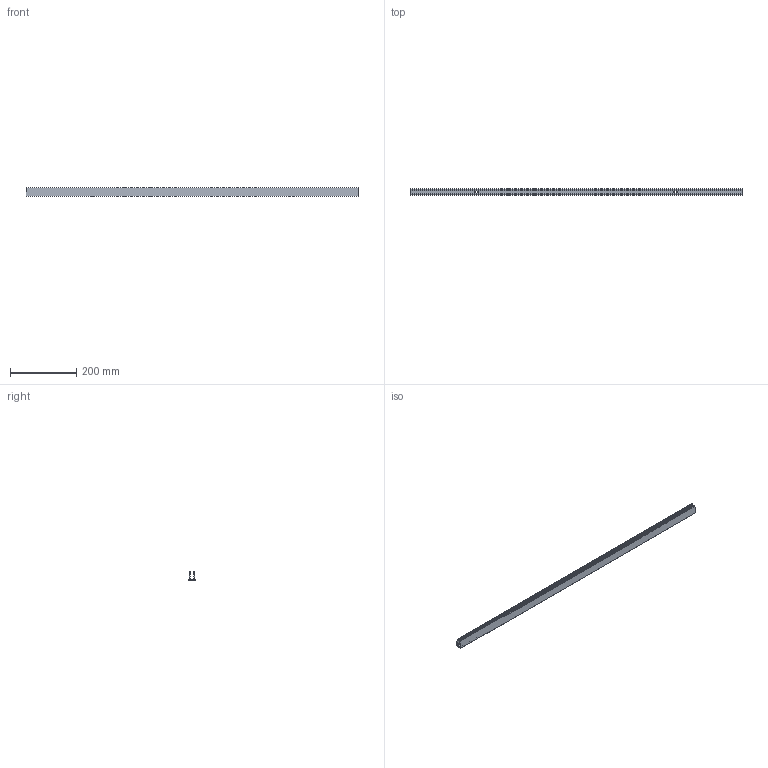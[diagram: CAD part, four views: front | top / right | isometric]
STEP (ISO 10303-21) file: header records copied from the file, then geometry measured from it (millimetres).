
FILE_DESCRIPTION(/* description */ (''),/* implementation_level */ '2;1');
FILE_NAME(/* name */ 'NF_1121+1128_TRANSPARENT_PROFILE_L1000_R01.step',/* time_stamp */ '2026-07-17T17:42:15+02:00',/* author */ (''),/* organization */ (''),/* preprocessor_version */ 'ST-DEVELOPER v20.1',/* originating_system */ 'Autodesk Translation Framework v15.8.0.0',/* authorisation */ '');
FILE_SCHEMA (('AUTOMOTIVE_DESIGN { 1 0 10303 214 3 1 1 }'));
Length unit declared in the file: millimetre
Products named in the file (1): 2026-07-17-16-22-43-731
Bounding box: 1000 x 19.58 x 26.33 mm (x, y, z)
Volume: 166996.9 mm3; surface area: 149661.6 mm2
Topology: 1 solids, 1 shells, 50 faces, 144 edges, 96 vertices
Faces by surface type: plane 36, cylinder 14
Entity records: 1677 total; most frequent: CARTESIAN_POINT 291, ORIENTED_EDGE 288, DIRECTION 274, EDGE_CURVE 144, LINE 116, VECTOR 116, VERTEX_POINT 96, AXIS2_PLACEMENT_3D 79
